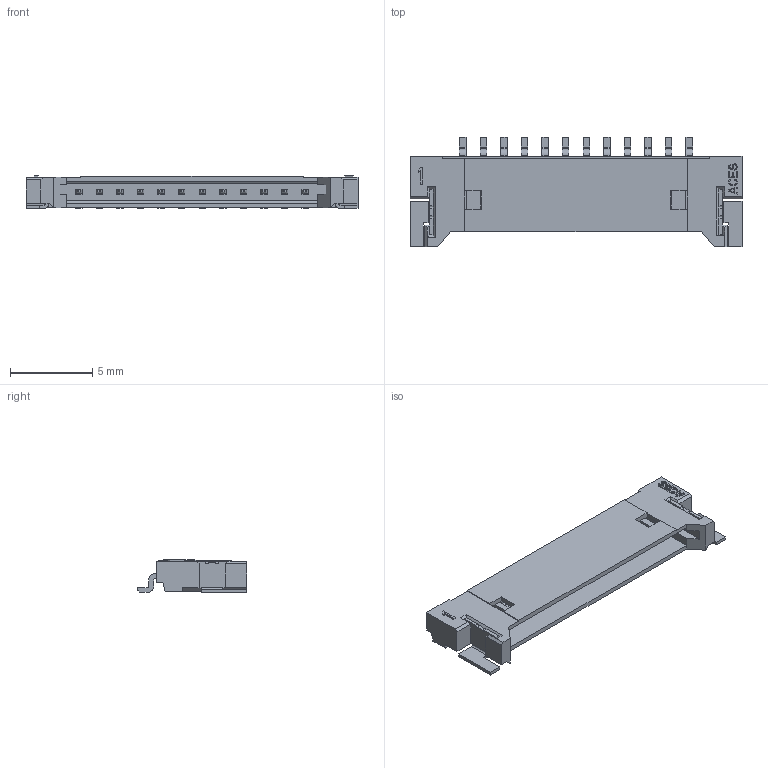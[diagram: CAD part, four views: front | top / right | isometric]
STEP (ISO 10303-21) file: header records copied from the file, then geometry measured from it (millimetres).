
FILE_DESCRIPTION((''),'2;1');
FILE_NAME('S-88231-12XXX-XX_AF0','2010-02-03T',('ouchwu'),(''),'PRO/ENGINEER BY PARAMETRIC TECHNOLOGY CORPORATION, 2007450','PRO/ENGINEER BY PARAMETRIC TECHNOLOGY CORPORATION, 2007450','');
FILE_SCHEMA(('CONFIG_CONTROL_DESIGN'));
Length unit declared in the file: millimetre
Products named in the file (1): S-88231-12XXX-XX_AF0
Bounding box: 20.15 x 6.65 x 2 mm (x, y, z)
Volume: 90.9 mm3; surface area: 500.9 mm2
Topology: 1 solids, 29 shells, 884 faces, 2260 edges, 1464 vertices
Faces by surface type: plane 818, cylinder 66
Entity records: 26130 total; most frequent: CARTESIAN_POINT 4608, ORIENTED_EDGE 4520, DIRECTION 4168, EDGE_CURVE 2260, VECTOR 2120, LINE 2120, VERTEX_POINT 1464, AXIS2_PLACEMENT_3D 1024
